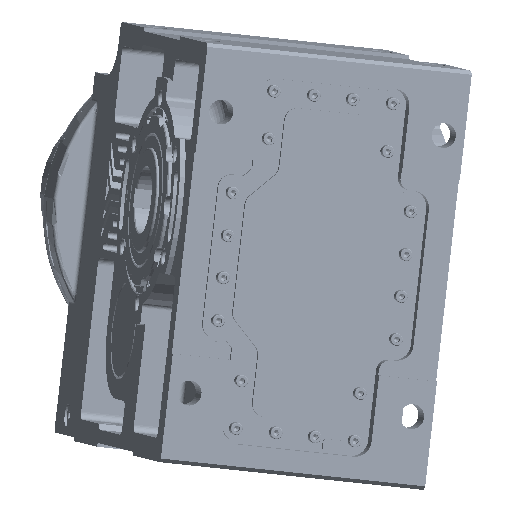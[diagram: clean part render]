
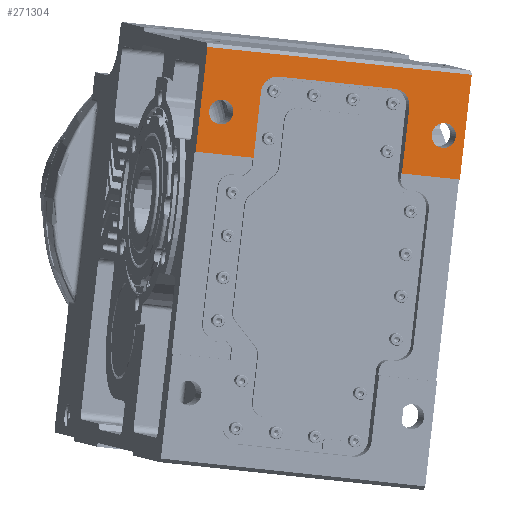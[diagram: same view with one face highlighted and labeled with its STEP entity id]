
A CAD part, top view. The second image highlights one B-rep face of the part: STEP entity #271304.
In plain terms, the highlighted planar face has unit normal (0.231, -0.058, 0.971) as drawn and (0, 0, 1) by its records, which use the part's own axes.
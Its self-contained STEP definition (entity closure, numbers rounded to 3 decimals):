
#2214 = LINE ( 'NONE', #77923, #2230 ) ;
#2230 = VECTOR ( 'NONE', #77965, 1000. ) ;
#2854 = LINE ( 'NONE', #85761, #2934 ) ;
#2862 = VECTOR ( 'NONE', #85643, 1000. ) ;
#2934 = VECTOR ( 'NONE', #85713, 1000. ) ;
#2940 = LINE ( 'NONE', #85663, #2862 ) ;
#3229 = VECTOR ( 'NONE', #85983, 1000. ) ;
#3351 = LINE ( 'NONE', #85973, #3229 ) ;
#4694 = VECTOR ( 'NONE', #86309, 1000. ) ;
#4743 = LINE ( 'NONE', #86241, #4694 ) ;
#26366 = CARTESIAN_POINT ( 'NONE',  ( -107., 105., 160. ) ) ;
#26563 = CARTESIAN_POINT ( 'NONE',  ( -133., 105., 160. ) ) ;
#26967 = CARTESIAN_POINT ( 'NONE',  ( 107., 105., 160. ) ) ;
#27010 = CARTESIAN_POINT ( 'NONE',  ( 133., 105., 160. ) ) ;
#41513 = VERTEX_POINT ( 'NONE', #26967 ) ;
#41551 = VERTEX_POINT ( 'NONE', #27010 ) ;
#41772 = VERTEX_POINT ( 'NONE', #26366 ) ;
#41841 = VERTEX_POINT ( 'NONE', #26563 ) ;
#45602 = ORIENTED_EDGE ( 'NONE', *, *, #47452, .T. ) ;
#45613 = ORIENTED_EDGE ( 'NONE', *, *, #47735, .T. ) ;
#45657 = ORIENTED_EDGE ( 'NONE', *, *, #218470, .T. ) ;
#45674 = ORIENTED_EDGE ( 'NONE', *, *, #284892, .T. ) ;
#45723 = ORIENTED_EDGE ( 'NONE', *, *, #218353, .T. ) ;
#45737 = ORIENTED_EDGE ( 'NONE', *, *, #286270, .T. ) ;
#45753 = ORIENTED_EDGE ( 'NONE', *, *, #47430, .T. ) ;
#45813 = ORIENTED_EDGE ( 'NONE', *, *, #286475, .F. ) ;
#45816 = ORIENTED_EDGE ( 'NONE', *, *, #286637, .F. ) ;
#45872 = ORIENTED_EDGE ( 'NONE', *, *, #47355, .T. ) ;
#45874 = ORIENTED_EDGE ( 'NONE', *, *, #47537, .T. ) ;
#45877 = ORIENTED_EDGE ( 'NONE', *, *, #286258, .F. ) ;
#45888 = ORIENTED_EDGE ( 'NONE', *, *, #47534, .T. ) ;
#45896 = ORIENTED_EDGE ( 'NONE', *, *, #47399, .T. ) ;
#47355 = EDGE_CURVE ( 'NONE', #327856, #328026, #107685, .T. ) ;
#47399 = EDGE_CURVE ( 'NONE', #328303, #328252, #108131, .T. ) ;
#47430 = EDGE_CURVE ( 'NONE', #327975, #328323, #108737, .T. ) ;
#47452 = EDGE_CURVE ( 'NONE', #328323, #328303, #108590, .T. ) ;
#47534 = EDGE_CURVE ( 'NONE', #328252, #327856, #109242, .T. ) ;
#47537 = EDGE_CURVE ( 'NONE', #41841, #41772, #109285, .T. ) ;
#47735 = EDGE_CURVE ( 'NONE', #41513, #41551, #245860, .T. ) ;
#51120 = EDGE_LOOP ( 'NONE', ( #45657, #45874 ) ) ;
#51357 = EDGE_LOOP ( 'NONE', ( #45723, #45613 ) ) ;
#51391 = EDGE_LOOP ( 'NONE', ( #45872, #45813, #45816, #45737, #45877, #45674, #45753, #45602, #45896, #45888 ) ) ;
#77923 = CARTESIAN_POINT ( 'NONE',  ( -90.5, 61., 160. ) ) ;
#77965 = DIRECTION ( 'NONE',  ( 1., 0., 0. ) ) ;
#85643 = DIRECTION ( 'NONE',  ( -1., 0., 0. ) ) ;
#85663 = CARTESIAN_POINT ( 'NONE',  ( -90.5, 171., 160. ) ) ;
#85713 = DIRECTION ( 'NONE',  ( 0., 1., 0. ) ) ;
#85761 = CARTESIAN_POINT ( 'NONE',  ( -142.5, 171., 160. ) ) ;
#85973 = CARTESIAN_POINT ( 'NONE',  ( 90.5, 61., 160. ) ) ;
#85983 = DIRECTION ( 'NONE',  ( -1., 0., 0. ) ) ;
#86241 = CARTESIAN_POINT ( 'NONE',  ( 142.5, 171., 160. ) ) ;
#86309 = DIRECTION ( 'NONE',  ( 0., -1., 0. ) ) ;
#104053 = VERTEX_POINT ( 'NONE', #156879 ) ;
#104626 = VERTEX_POINT ( 'NONE', #157782 ) ;
#107685 = LINE ( 'NONE', #236581, #107841 ) ;
#107841 = VECTOR ( 'NONE', #236479, 1000. ) ;
#108131 = LINE ( 'NONE', #236739, #108356 ) ;
#108356 = VECTOR ( 'NONE', #236742, 1000. ) ;
#108590 = CIRCLE ( 'NONE', #326773, 17.5 ) ;
#108737 = LINE ( 'NONE', #236750, #108797 ) ;
#108797 = VECTOR ( 'NONE', #236812, 1000. ) ;
#109242 = CIRCLE ( 'NONE', #326818, 17.5 ) ;
#109285 = CIRCLE ( 'NONE', #326823, 13. ) ;
#110167 = VERTEX_POINT ( 'NONE', #164940 ) ;
#110474 = VERTEX_POINT ( 'NONE', #165352 ) ;
#156879 = CARTESIAN_POINT ( 'NONE',  ( -142.5, 171., 160. ) ) ;
#157782 = CARTESIAN_POINT ( 'NONE',  ( 142.5, 171., 160. ) ) ;
#164940 = CARTESIAN_POINT ( 'NONE',  ( -142.5, 61., 160. ) ) ;
#165352 = CARTESIAN_POINT ( 'NONE',  ( 142.5, 61., 160. ) ) ;
#191995 = AXIS2_PLACEMENT_3D ( 'NONE', #227136, #227151, #227124 ) ;
#212326 = FACE_OUTER_BOUND ( 'NONE', #51391, .T. ) ;
#212497 = FACE_BOUND ( 'NONE', #51120, .T. ) ;
#212669 = FACE_BOUND ( 'NONE', #51357, .T. ) ;
#218353 = EDGE_CURVE ( 'NONE', #41551, #41513, #278252, .T. ) ;
#218470 = EDGE_CURVE ( 'NONE', #41772, #41841, #278437, .T. ) ;
#227124 = DIRECTION ( 'NONE',  ( 0., -1., 0. ) ) ;
#227136 = CARTESIAN_POINT ( 'NONE',  ( -90.5, 175., 160. ) ) ;
#227151 = DIRECTION ( 'NONE',  ( 0., 0., 1. ) ) ;
#227171 = PLANE ( 'NONE',  #191995 ) ;
#228009 = CARTESIAN_POINT ( 'NONE',  ( 80., 130.5, 160. ) ) ;
#228086 = CARTESIAN_POINT ( 'NONE',  ( -80., 61., 160. ) ) ;
#228111 = CARTESIAN_POINT ( 'NONE',  ( 80., 61., 160. ) ) ;
#228258 = CARTESIAN_POINT ( 'NONE',  ( -80., 130.5, 160. ) ) ;
#228350 = CARTESIAN_POINT ( 'NONE',  ( -62.5, 148., 160. ) ) ;
#228370 = CARTESIAN_POINT ( 'NONE',  ( 62.5, 148., 160. ) ) ;
#236479 = DIRECTION ( 'NONE',  ( 0., -1., 0. ) ) ;
#236581 = CARTESIAN_POINT ( 'NONE',  ( 80., 175., 160. ) ) ;
#236739 = CARTESIAN_POINT ( 'NONE',  ( -90.5, 148., 160. ) ) ;
#236742 = DIRECTION ( 'NONE',  ( 1., 0., 0. ) ) ;
#236750 = CARTESIAN_POINT ( 'NONE',  ( -80., 175., 160. ) ) ;
#236812 = DIRECTION ( 'NONE',  ( 0., 1., 0. ) ) ;
#236884 = DIRECTION ( 'NONE',  ( 0., 0., -1. ) ) ;
#236886 = DIRECTION ( 'NONE',  ( 1., 0., 0. ) ) ;
#237005 = CARTESIAN_POINT ( 'NONE',  ( -62.5, 130.5, 160. ) ) ;
#237398 = CARTESIAN_POINT ( 'NONE',  ( 62.5, 130.5, 160. ) ) ;
#237485 = DIRECTION ( 'NONE',  ( 0., 0., -1. ) ) ;
#237534 = DIRECTION ( 'NONE',  ( 1., 0., 0. ) ) ;
#237579 = DIRECTION ( 'NONE',  ( 0., 0., -1. ) ) ;
#237594 = DIRECTION ( 'NONE',  ( 1., 0., 0. ) ) ;
#237597 = CARTESIAN_POINT ( 'NONE',  ( -120., 105., 160. ) ) ;
#238597 = DIRECTION ( 'NONE',  ( 1., 0., 0. ) ) ;
#238610 = DIRECTION ( 'NONE',  ( 0., 0., -1. ) ) ;
#238659 = CARTESIAN_POINT ( 'NONE',  ( 120., 105., 160. ) ) ;
#245860 = CIRCLE ( 'NONE', #327026, 13. ) ;
#271278 = DIRECTION ( 'NONE',  ( 0., 0., -1. ) ) ;
#271300 = CARTESIAN_POINT ( 'NONE',  ( 120., 105., 160. ) ) ;
#271304 = ADVANCED_FACE ( 'NONE', ( #212497, #212669, #212326 ), #227171, .T. ) ;
#271457 = DIRECTION ( 'NONE',  ( 1., 0., 0. ) ) ;
#272425 = CARTESIAN_POINT ( 'NONE',  ( -120., 105., 160. ) ) ;
#272468 = DIRECTION ( 'NONE',  ( 1., 0., 0. ) ) ;
#272472 = DIRECTION ( 'NONE',  ( 0., 0., -1. ) ) ;
#278252 = CIRCLE ( 'NONE', #313512, 13. ) ;
#278437 = CIRCLE ( 'NONE', #313668, 13. ) ;
#284892 = EDGE_CURVE ( 'NONE', #110167, #327975, #2214, .T. ) ;
#286258 = EDGE_CURVE ( 'NONE', #110167, #104053, #2854, .T. ) ;
#286270 = EDGE_CURVE ( 'NONE', #104626, #104053, #2940, .T. ) ;
#286475 = EDGE_CURVE ( 'NONE', #110474, #328026, #3351, .T. ) ;
#286637 = EDGE_CURVE ( 'NONE', #104626, #110474, #4743, .T. ) ;
#313512 = AXIS2_PLACEMENT_3D ( 'NONE', #271300, #271278, #271457 ) ;
#313668 = AXIS2_PLACEMENT_3D ( 'NONE', #272425, #272472, #272468 ) ;
#326773 = AXIS2_PLACEMENT_3D ( 'NONE', #237005, #236884, #236886 ) ;
#326818 = AXIS2_PLACEMENT_3D ( 'NONE', #237398, #237485, #237594 ) ;
#326823 = AXIS2_PLACEMENT_3D ( 'NONE', #237597, #237579, #237534 ) ;
#327026 = AXIS2_PLACEMENT_3D ( 'NONE', #238659, #238610, #238597 ) ;
#327856 = VERTEX_POINT ( 'NONE', #228009 ) ;
#327975 = VERTEX_POINT ( 'NONE', #228086 ) ;
#328026 = VERTEX_POINT ( 'NONE', #228111 ) ;
#328252 = VERTEX_POINT ( 'NONE', #228370 ) ;
#328303 = VERTEX_POINT ( 'NONE', #228350 ) ;
#328323 = VERTEX_POINT ( 'NONE', #228258 ) ;
